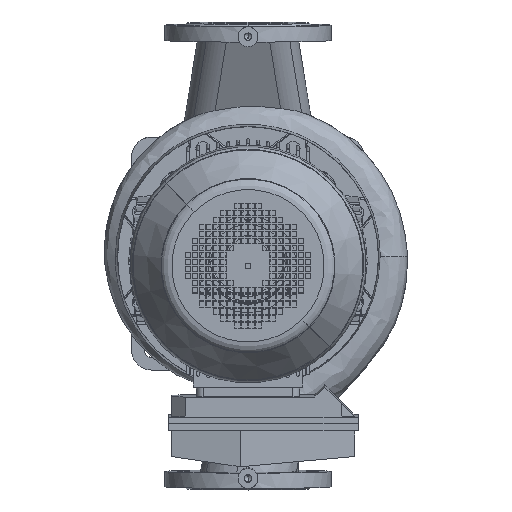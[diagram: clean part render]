
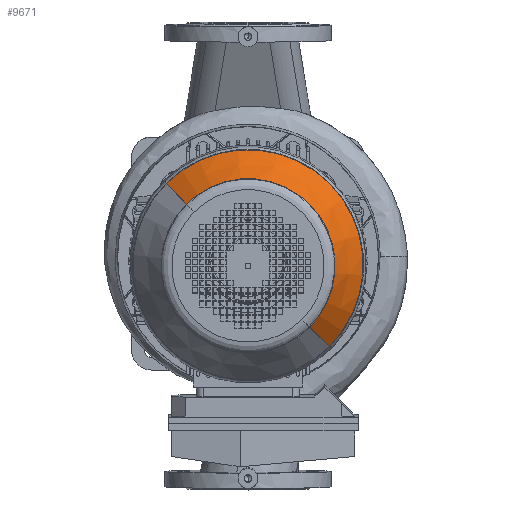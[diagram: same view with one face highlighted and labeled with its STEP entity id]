
A CAD part, top view. The second image highlights one B-rep face of the part: STEP entity #9671.
In plain terms, the highlighted conical face has half-angle 34.992 degrees and reference radius 125 mm.
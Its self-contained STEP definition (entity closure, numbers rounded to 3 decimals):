
#9671=ADVANCED_FACE('',(#23120),#23121,.T.);
#11367=EDGE_CURVE('',#26083,#26084,#26085,.T.);
#11369=EDGE_CURVE('',#26087,#26088,#26089,.T.);
#23120=FACE_OUTER_BOUND('',#43401,.T.);
#23121=CONICAL_SURFACE('',#43402,125.0,0.611);
#26083=VERTEX_POINT('',#46369);
#26084=VERTEX_POINT('',#46370);
#26085=CIRCLE('',#46371,173.885);
#26087=VERTEX_POINT('',#46374);
#26088=VERTEX_POINT('',#46375);
#26089=CIRCLE('',#46376,130.972);
#43401=EDGE_LOOP('',(#73256,#73257,#73258,#73259));
#43402=AXIS2_PLACEMENT_3D('',#73260,#73261,#73262);
#46369=CARTESIAN_POINT('',(173.885,0.,130.165));
#46370=CARTESIAN_POINT('',(-173.885,0.,130.165));
#46371=AXIS2_PLACEMENT_3D('',#81711,#81712,#81713);
#46374=CARTESIAN_POINT('',(-130.972,0.,191.469));
#46375=CARTESIAN_POINT('',(130.972,0.0,191.469));
#46376=AXIS2_PLACEMENT_3D('',#81714,#81715,#81716);
#73256=ORIENTED_EDGE('',*,*,#91258,.F.);
#73257=ORIENTED_EDGE('',*,*,#11367,.F.);
#73258=ORIENTED_EDGE('',*,*,#91259,.F.);
#73259=ORIENTED_EDGE('',*,*,#11369,.F.);
#73260=CARTESIAN_POINT('',(0.0,0.0,200.0));
#73261=DIRECTION('',(-0.0,-0.0,-1.0));
#73262=DIRECTION('',(-1.0,0.0,0.0));
#81711=CARTESIAN_POINT('',(0.0,0.0,130.165));
#81712=DIRECTION('',(0.0,0.0,-1.0));
#81713=DIRECTION('',(1.0,0.,0.0));
#81714=CARTESIAN_POINT('',(0.0,0.0,191.469));
#81715=DIRECTION('',(0.0,0.0,1.0));
#81716=DIRECTION('',(1.0,0.0,0.0));
#91258=EDGE_CURVE('',#26084,#26087,#98037,.T.);
#91259=EDGE_CURVE('',#26088,#26083,#98038,.T.);
#98037=LINE('',#106517,#106518);
#98038=LINE('',#106519,#106520);
#106517=CARTESIAN_POINT('',(-125.0,0.,200.0));
#106518=VECTOR('',#115270,1.0);
#106519=CARTESIAN_POINT('',(125.0,0.,200.0));
#106520=VECTOR('',#115271,1.0);
#115270=DIRECTION('',(0.573,0.,0.819));
#115271=DIRECTION('',(0.573,0.,-0.819));
